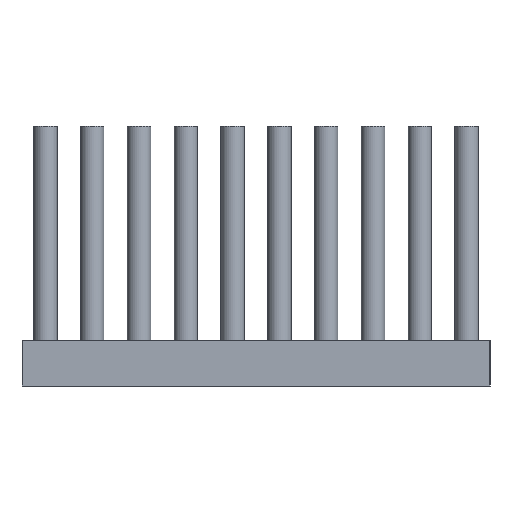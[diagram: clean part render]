
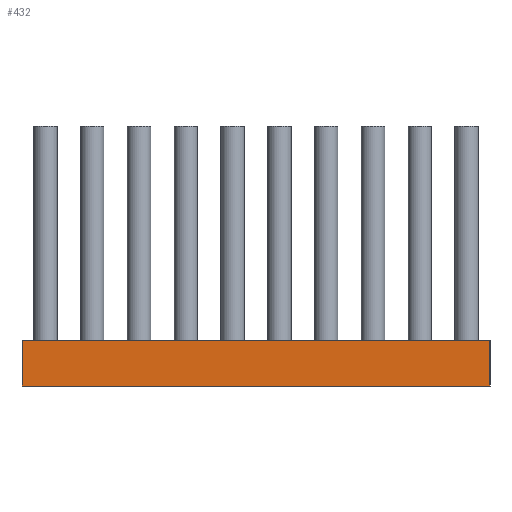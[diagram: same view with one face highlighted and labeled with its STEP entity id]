
A CAD part, left-side view. The second image highlights one B-rep face of the part: STEP entity #432.
In plain terms, the highlighted planar face has unit normal (-1, 0, 0).
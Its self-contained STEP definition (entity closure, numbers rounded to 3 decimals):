
#97=PLANE('',#2690);
#203=FACE_OUTER_BOUND('',#1139,.T.);
#312=LINE('',#4134,#324);
#313=LINE('',#4136,#325);
#314=LINE('',#4138,#326);
#315=LINE('',#4140,#327);
#324=VECTOR('',#3404,1.);
#325=VECTOR('',#3407,1.);
#326=VECTOR('',#3408,1.);
#327=VECTOR('',#3409,1.);
#432=ADVANCED_FACE('',(#203),#97,.T.);
#1139=EDGE_LOOP('',(#1551,#1552,#1553,#1554));
#1551=ORIENTED_EDGE('',*,*,#2182,.F.);
#1552=ORIENTED_EDGE('',*,*,#2181,.F.);
#1553=ORIENTED_EDGE('',*,*,#2183,.T.);
#1554=ORIENTED_EDGE('',*,*,#2184,.T.);
#1971=VERTEX_POINT('',#4131);
#1972=VERTEX_POINT('',#4133);
#1973=VERTEX_POINT('',#4137);
#1974=VERTEX_POINT('',#4139);
#2181=EDGE_CURVE('',#1972,#1971,#312,.T.);
#2182=EDGE_CURVE('',#1971,#1973,#313,.T.);
#2183=EDGE_CURVE('',#1972,#1974,#314,.T.);
#2184=EDGE_CURVE('',#1974,#1973,#315,.T.);
#2690=AXIS2_PLACEMENT_3D('',#4141,#3410,#3411);
#3404=DIRECTION('',(0.,0.,1.));
#3407=DIRECTION('',(0.,-1.,0.));
#3408=DIRECTION('',(0.,-1.,0.));
#3409=DIRECTION('',(0.,0.,1.));
#3410=DIRECTION('',(-1.,0.,0.));
#3411=DIRECTION('',(0.,-1.,0.));
#4131=CARTESIAN_POINT('',(-1.8,34.2,0.));
#4133=CARTESIAN_POINT('',(-1.8,34.2,-3.5));
#4134=CARTESIAN_POINT('',(-1.8,34.2,-3.5));
#4136=CARTESIAN_POINT('',(-1.8,34.2,0.));
#4137=CARTESIAN_POINT('',(-1.8,-1.8,0.));
#4138=CARTESIAN_POINT('',(-1.8,34.2,-3.5));
#4139=CARTESIAN_POINT('',(-1.8,-1.8,-3.5));
#4140=CARTESIAN_POINT('',(-1.8,-1.8,-3.5));
#4141=CARTESIAN_POINT('',(-1.8,34.2,-3.5));
